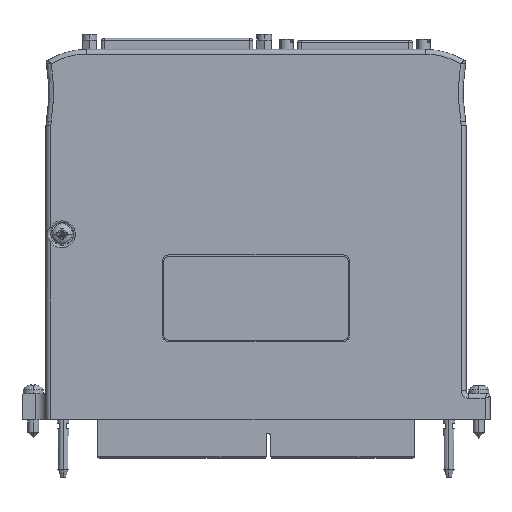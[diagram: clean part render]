
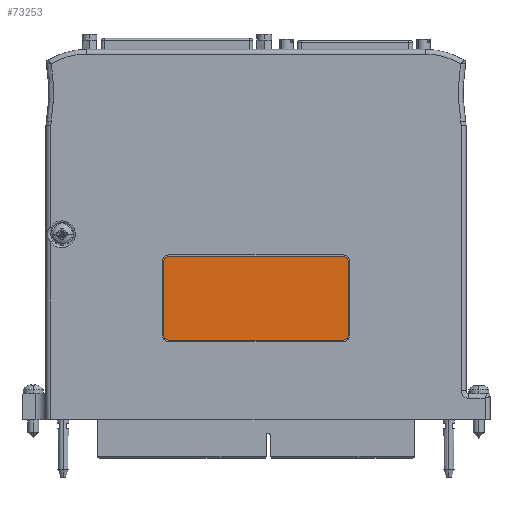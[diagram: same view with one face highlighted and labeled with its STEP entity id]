
A CAD part, left-side view. The second image highlights one B-rep face of the part: STEP entity #73253.
In plain terms, the highlighted planar face has unit normal (-1, 0, 0).
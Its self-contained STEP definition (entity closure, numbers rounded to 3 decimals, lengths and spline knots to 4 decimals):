
#21622=CARTESIAN_POINT('',(-0.394,0.938,1.699));
#21623=DIRECTION('',(-1.,0.,0.));
#21624=DIRECTION('',(0.,0.,1.));
#21625=AXIS2_PLACEMENT_3D('',#21622,#21623,#21624);
#21627=DIRECTION('',(0.,1.,0.));
#21628=VECTOR('',#21627,1.876);
#21629=CARTESIAN_POINT('',(-0.394,-0.938,1.761));
#21630=LINE('',#21629,#21628);
#21631=CARTESIAN_POINT('',(-0.394,-0.938,1.699));
#21632=DIRECTION('',(-1.,0.,0.));
#21633=DIRECTION('',(0.,-1.,0.));
#21634=AXIS2_PLACEMENT_3D('',#21631,#21632,#21633);
#21636=DIRECTION('',(0.,0.,1.));
#21637=VECTOR('',#21636,0.782);
#21638=CARTESIAN_POINT('',(-0.394,-1.,0.917));
#21639=LINE('',#21638,#21637);
#21640=CARTESIAN_POINT('',(-0.394,-0.938,0.917));
#21641=DIRECTION('',(-1.,0.,0.));
#21642=DIRECTION('',(0.,0.,-1.));
#21643=AXIS2_PLACEMENT_3D('',#21640,#21641,#21642);
#21645=DIRECTION('',(0.,-1.,0.));
#21646=VECTOR('',#21645,1.876);
#21647=CARTESIAN_POINT('',(-0.394,0.938,0.855));
#21648=LINE('',#21647,#21646);
#21649=CARTESIAN_POINT('',(-0.394,0.938,0.917));
#21650=DIRECTION('',(-1.,0.,0.));
#21651=DIRECTION('',(0.,1.,0.));
#21652=AXIS2_PLACEMENT_3D('',#21649,#21650,#21651);
#21654=DIRECTION('',(0.,0.,-1.));
#21655=VECTOR('',#21654,0.782);
#21656=CARTESIAN_POINT('',(-0.394,1.,1.699));
#21657=LINE('',#21656,#21655);
#44183=CARTESIAN_POINT('',(-0.394,0.938,1.761));
#44184=CARTESIAN_POINT('',(-0.394,1.,1.699));
#44185=VERTEX_POINT('',#44183);
#44186=VERTEX_POINT('',#44184);
#44187=CARTESIAN_POINT('',(-0.394,-1.,1.699));
#44188=CARTESIAN_POINT('',(-0.394,-0.938,1.761));
#44189=VERTEX_POINT('',#44187);
#44190=VERTEX_POINT('',#44188);
#44191=CARTESIAN_POINT('',(-0.394,-0.938,0.855));
#44192=CARTESIAN_POINT('',(-0.394,-1.,0.917));
#44193=VERTEX_POINT('',#44191);
#44194=VERTEX_POINT('',#44192);
#44195=CARTESIAN_POINT('',(-0.394,1.,0.917));
#44196=CARTESIAN_POINT('',(-0.394,0.938,0.855));
#44197=VERTEX_POINT('',#44195);
#44198=VERTEX_POINT('',#44196);
#73238=CARTESIAN_POINT('',(-0.394,-1.,1.761));
#73239=DIRECTION('',(-1.,0.,0.));
#73240=DIRECTION('',(0.,1.,0.));
#73241=AXIS2_PLACEMENT_3D('',#73238,#73239,#73240);
#73242=PLANE('',#73241);
#73243=ORIENTED_EDGE('',*,*,#73232,.F.);
#73244=ORIENTED_EDGE('',*,*,#73134,.F.);
#73245=ORIENTED_EDGE('',*,*,#73149,.F.);
#73246=ORIENTED_EDGE('',*,*,#73163,.F.);
#73247=ORIENTED_EDGE('',*,*,#73177,.F.);
#73248=ORIENTED_EDGE('',*,*,#73191,.F.);
#73249=ORIENTED_EDGE('',*,*,#73205,.F.);
#73250=ORIENTED_EDGE('',*,*,#73219,.F.);
#73251=EDGE_LOOP('',(#73243,#73244,#73245,#73246,#73247,#73248,#73249,#73250));
#73252=FACE_OUTER_BOUND('',#73251,.F.);
#73253=ADVANCED_FACE('',(#73252),#73242,.T.);
#21626=CIRCLE('',#21625,0.062);
#21635=CIRCLE('',#21634,0.062);
#21644=CIRCLE('',#21643,0.062);
#21653=CIRCLE('',#21652,0.062);
#73134=EDGE_CURVE('',#44190,#44185,#21630,.T.);
#73149=EDGE_CURVE('',#44189,#44190,#21635,.T.);
#73163=EDGE_CURVE('',#44194,#44189,#21639,.T.);
#73177=EDGE_CURVE('',#44193,#44194,#21644,.T.);
#73191=EDGE_CURVE('',#44198,#44193,#21648,.T.);
#73205=EDGE_CURVE('',#44197,#44198,#21653,.T.);
#73219=EDGE_CURVE('',#44186,#44197,#21657,.T.);
#73232=EDGE_CURVE('',#44185,#44186,#21626,.T.);
